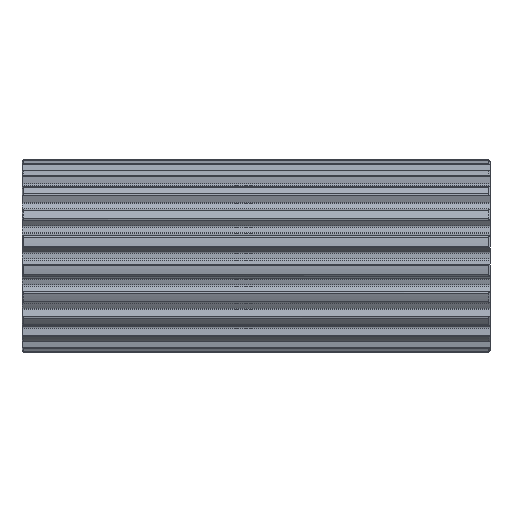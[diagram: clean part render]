
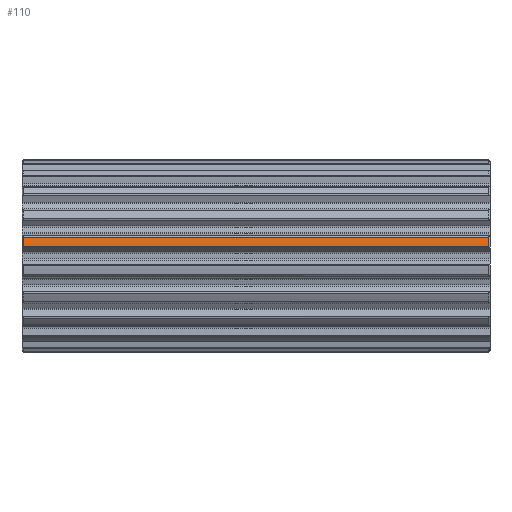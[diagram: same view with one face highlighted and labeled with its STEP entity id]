
A CAD part, front view. The second image highlights one B-rep face of the part: STEP entity #110.
In plain terms, the highlighted cylindrical face has radius 32.92 mm (diameter 65.84 mm), a partial arc.
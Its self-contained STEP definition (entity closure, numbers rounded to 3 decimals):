
#110=ADVANCED_FACE('',(#372),#373,.T.);
#372=FACE_OUTER_BOUND('',#826,.T.);
#373=CYLINDRICAL_SURFACE('',#827,32.92);
#826=EDGE_LOOP('',(#1494,#1495,#1496,#1497));
#827=AXIS2_PLACEMENT_3D('',#1498,#1499,#1500);
#1494=ORIENTED_EDGE('',*,*,#3365,.T.);
#1495=ORIENTED_EDGE('',*,*,#3366,.T.);
#1496=ORIENTED_EDGE('',*,*,#3367,.T.);
#1497=ORIENTED_EDGE('',*,*,#3368,.T.);
#1498=CARTESIAN_POINT('',(80.0,0.0,0.0));
#1499=DIRECTION('',(1.0,0.0,-0.0));
#1500=DIRECTION('',(0.0,0.149,0.989));
#3365=EDGE_CURVE('',#4161,#4170,#4172,.T.);
#3366=EDGE_CURVE('',#4170,#4173,#4174,.T.);
#3367=EDGE_CURVE('',#4173,#4175,#4176,.T.);
#3368=EDGE_CURVE('',#4175,#4161,#4177,.T.);
#4161=VERTEX_POINT('',#5929);
#4170=VERTEX_POINT('',#5963);
#4172=CIRCLE('',#5972,32.92);
#4173=VERTEX_POINT('',#5973);
#4174=LINE('',#5974,#5975);
#4175=VERTEX_POINT('',#5976);
#4176=CIRCLE('',#5977,32.92);
#4177=LINE('',#5978,#5979);
#5929=CARTESIAN_POINT('',(0.5,-32.278,6.469));
#5963=CARTESIAN_POINT('',(0.5,-32.751,3.333));
#5972=AXIS2_PLACEMENT_3D('',#7859,#7860,#7861);
#5973=CARTESIAN_POINT('',(159.5,-32.751,3.333));
#5974=CARTESIAN_POINT('',(80.0,-32.751,3.333));
#5975=VECTOR('',#7862,1.0);
#5976=CARTESIAN_POINT('',(159.5,-32.278,6.469));
#5977=AXIS2_PLACEMENT_3D('',#7863,#7864,#7865);
#5978=CARTESIAN_POINT('',(80.0,-32.278,6.469));
#5979=VECTOR('',#7866,1.0);
#7859=CARTESIAN_POINT('',(0.5,0.0,0.0));
#7860=DIRECTION('',(1.0,0.,0.));
#7861=DIRECTION('',(0.,0.149,0.989));
#7862=DIRECTION('',(1.0,0.0,0.0));
#7863=CARTESIAN_POINT('',(159.5,0.0,0.0));
#7864=DIRECTION('',(-1.0,0.0,0.0));
#7865=DIRECTION('',(0.0,0.149,0.989));
#7866=DIRECTION('',(-1.0,0.0,0.0));
